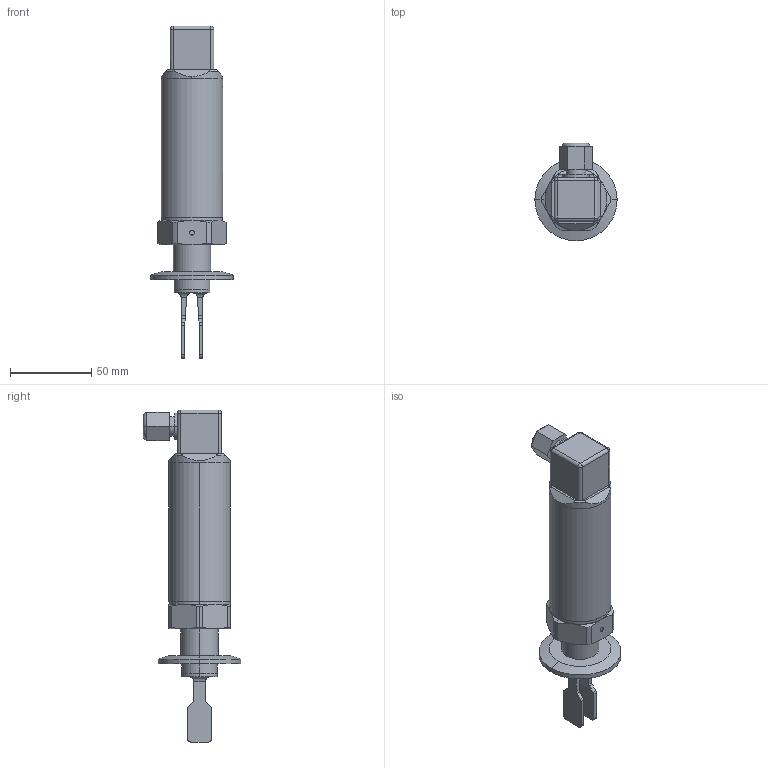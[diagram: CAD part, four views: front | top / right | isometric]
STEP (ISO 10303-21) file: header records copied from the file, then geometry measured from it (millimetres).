
FILE_DESCRIPTION (( 'STEP AP203' ), '1' );
FILE_NAME ('HS73I（霍斯曼接头）.STEP', '2024-10-25T07:06:11', ( '' ), ( '' ), 'SwSTEP 2.0', 'SolidWorks 2016', '' );
FILE_SCHEMA (( 'CONFIG_CONTROL_DESIGN' ));
Length unit declared in the file: millimetre
Products named in the file (3): 苤脫1199.7hz; HS73Iㄗ齊佴霤諉芛ㄘ; HS73I 齊佴霤
Assembly tree (2 placements, depth 2):
  HS73Iㄗ齊佴霤諉芛ㄘ
    苤脫1199.7hz
    HS73I 齊佴霤
Bounding box: 50.5 x 59.75 x 204 mm (x, y, z)
Volume: 168744.3 mm3; surface area: 30145.2 mm2
Topology: 3 solids, 3 shells, 169 faces, 417 edges, 264 vertices
Faces by surface type: plane 76, cylinder 65, cone 18, torus 6, sphere 4
Entity records: 5542 total; most frequent: CARTESIAN_POINT 1287, DIRECTION 843, ORIENTED_EDGE 826, EDGE_CURVE 413, AXIS2_PLACEMENT_3D 328, VERTEX_POINT 264, LINE 187, VECTOR 187
